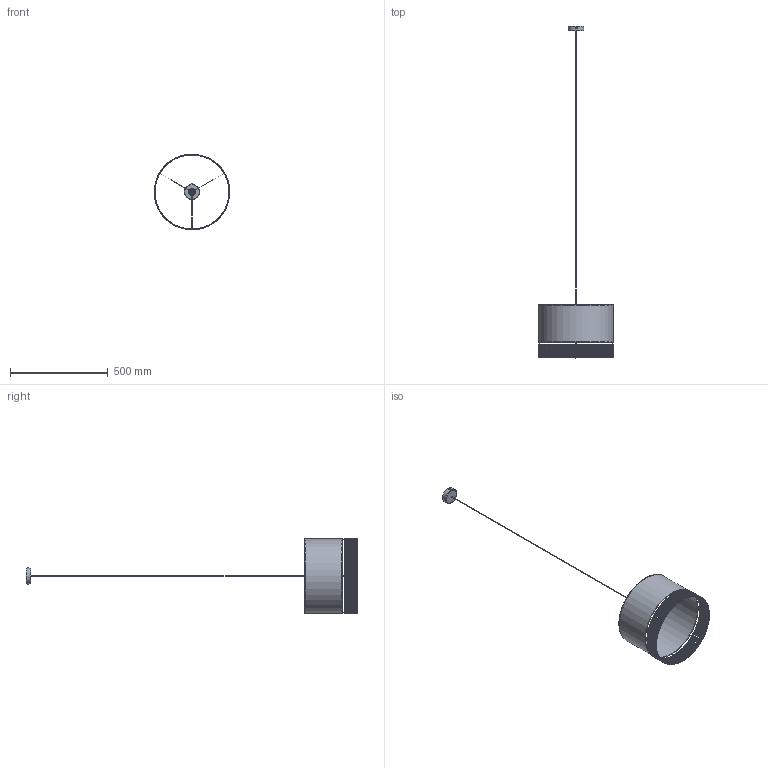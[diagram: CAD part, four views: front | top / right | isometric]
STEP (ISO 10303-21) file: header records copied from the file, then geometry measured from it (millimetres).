
FILE_DESCRIPTION(/* description */ (''),/* implementation_level */ '2;1');
FILE_NAME(/* name */ 'C:/Users/kubaw/OneDrive/Pulpit/Nowy folder (3)/6533_KLOSZ v7.step',/* time_stamp */ '2021-12-11T12:15:43+01:00',/* author */ (''),/* organization */ (''),/* preprocessor_version */ 'ST-DEVELOPER v18.1',/* originating_system */ 'Autodesk Translation Framework v10.10.0.1391',/* authorisation */ '');
FILE_SCHEMA (('AUTOMOTIVE_DESIGN { 1 0 10303 214 3 1 1 }'));
Length unit declared in the file: millimetre
Products named in the file (3): 6533_KLOSZ; MOCOWANIE_6533 v2; ŚRUBA_PA
Assembly tree (3 placements, depth 2):
  6533_KLOSZ
    MOCOWANIE_6533 v2
    ŚRUBA_PA  x2
Bounding box: 386.5 x 1700 x 386.5 mm (x, y, z)
Volume: 502562.3 mm3; surface area: 792692.2 mm2
Topology: 363 solids, 364 shells, 3958 faces, 9054 edges, 5826 vertices
Faces by surface type: plane 1478, bspline 1291, cylinder 1052, cone 80, torus 57
Full cylindrical faces by diameter (mm): 2 x9, 3.8 x1, 4 x7, 7.5 x2, 9.6 x2, 19.84 x1, 24.929 x10, 26.88 x1, 28.8 x3, 32 x1, 33 x1, 33.12 x1, 38 x1, 80 x1, 378.978 x4, 379.978 x1, 381.978 x1, 382.978 x4, 383 x10, 385 x10
Entity records: 179483 total; most frequent: CARTESIAN_POINT 98048, ORIENTED_EDGE 17994, DIRECTION 14396, EDGE_CURVE 9000, VERTEX_POINT 5790, AXIS2_PLACEMENT_3D 5051, LINE 4294, VECTOR 4294
